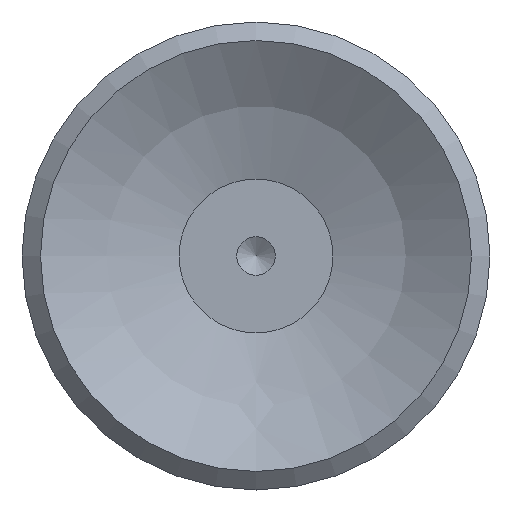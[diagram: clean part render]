
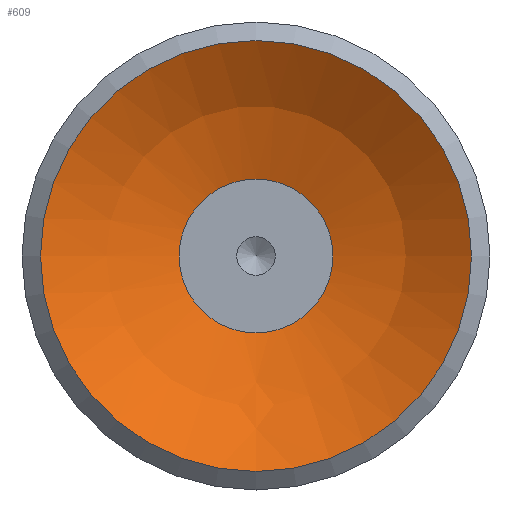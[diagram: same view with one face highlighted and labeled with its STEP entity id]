
A CAD part, front view. The second image highlights one B-rep face of the part: STEP entity #609.
In plain terms, the highlighted spherical face has radius 11.5 mm.
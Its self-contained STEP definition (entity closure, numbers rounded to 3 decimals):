
#609=ADVANCED_FACE('',(#1018,#1019),#1020,.F.);
#1018=FACE_OUTER_BOUND('',#1493,.T.);
#1019=FACE_OUTER_BOUND('',#1494,.T.);
#1020=SPHERICAL_SURFACE('',#1495,11.5);
#1493=EDGE_LOOP('',(#2644));
#1494=EDGE_LOOP('',(#2645));
#1495=AXIS2_PLACEMENT_3D('',#2646,#2647,#2648);
#2644=ORIENTED_EDGE('',*,*,#3288,.T.);
#2645=ORIENTED_EDGE('',*,*,#3289,.F.);
#2646=CARTESIAN_POINT('',(0.001,9.494,-22.735));
#2647=DIRECTION('',(0.0,0.,-1.0));
#2648=DIRECTION('',(1.0,0.0,0.0));
#3288=EDGE_CURVE('',#3912,#3912,#3913,.T.);
#3289=EDGE_CURVE('',#3914,#3914,#3915,.T.);
#3912=VERTEX_POINT('',#5589);
#3913=CIRCLE('',#5590,7.0);
#3914=VERTEX_POINT('',#5591);
#3915=CIRCLE('',#5592,2.5);
#5589=CARTESIAN_POINT('',(0.001,16.494,-13.611));
#5590=AXIS2_PLACEMENT_3D('',#6244,#6245,#6246);
#5591=CARTESIAN_POINT('',(0.001,11.994,-11.51));
#5592=AXIS2_PLACEMENT_3D('',#6247,#6248,#6249);
#6244=CARTESIAN_POINT('',(0.001,9.494,-13.611));
#6245=DIRECTION('',(0.0,0.,-1.0));
#6246=DIRECTION('',(0.0,1.0,0.));
#6247=CARTESIAN_POINT('',(0.001,9.494,-11.51));
#6248=DIRECTION('',(0.0,0.,-1.0));
#6249=DIRECTION('',(0.0,1.0,0.));
